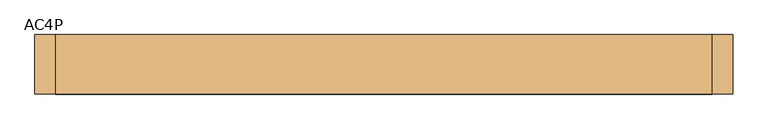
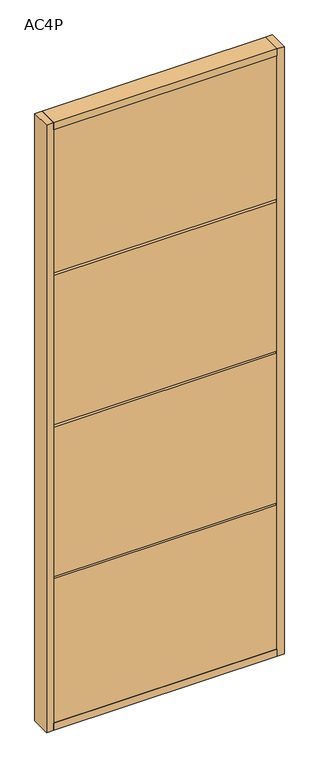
"""IFC4 building model written with IfcOpenShell, lengths in millimetres: door geometry, Mobiliário_Mobiliário de Escritório_Painel Cego - AC4P (Completo)_Marelli : AC4P."""

from ifc_helpers import new_model, si_unit, frame, origin, origin_with_axes, place, context, project, spatial, polyline, outline, extrude, source, transform, mapped, element, save


def ac4p_dcdd4fd7(model_context):
    return source(origin(), model_context, "Body", "SweptSolid", [
        extrude(outline(polyline([(470.0, 42.5), (470.0, -42.5), (-470.0, -42.5), (-470.0, 42.5), (470.0, 42.5)])), origin_with_axes(), (0.0, 0.0, 1.0), 30.0),
        extrude(outline(polyline([(470.0, 39.5), (470.0, 21.5), (-470.0, 21.5), (-470.0, 39.5), (470.0, 39.5)])), frame((0.0, 0.0, 30.0), z_axis=(0.0, 0.0, 1.0), x_axis=(1.0, 0.0, 0.0)), (0.0, 0.0, 1.0), 640.0),
        extrude(outline(polyline([(470.0, 21.5), (470.0, -21.5), (-470.0, -21.5), (-470.0, 21.5), (470.0, 21.5)])), frame((0.0, 0.0, 653.5), z_axis=(0.0, 0.0, 1.0), x_axis=(1.0, 0.0, 0.0)), (0.0, 0.0, 1.0), 43.0),
        extrude(outline(polyline([(470.0, -39.5), (-470.0, -39.5), (-470.0, -21.5), (470.0, -21.5), (470.0, -39.5)])), frame((0.0, 0.0, 30.0), z_axis=(0.0, 0.0, 1.0), x_axis=(1.0, 0.0, 0.0)), (0.0, 0.0, 1.0), 640.0),
        extrude(outline(polyline([(470.0, 42.5), (470.0, -42.5), (-470.0, -42.5), (-470.0, 42.5), (470.0, 42.5)])), frame((0.0, 0.0, 2670.0), z_axis=(0.0, 0.0, 1.0), x_axis=(1.0, 0.0, 0.0)), (0.0, 0.0, 1.0), 30.0),
        extrude(outline(polyline([(470.0, 39.5), (470.0, 21.5), (-470.0, 21.5), (-470.0, 39.5), (470.0, 39.5)])), frame((0.0, 0.0, 1355.0), z_axis=(0.0, 0.0, 1.0), x_axis=(1.0, 0.0, 0.0)), (0.0, 0.0, 1.0), 665.0),
        extrude(outline(polyline([(470.0, 21.5), (470.0, -21.5), (-470.0, -21.5), (-470.0, 21.5), (470.0, 21.5)])), frame((0.0, 0.0, 2003.5), z_axis=(0.0, 0.0, 1.0), x_axis=(1.0, 0.0, 0.0)), (0.0, 0.0, 1.0), 43.0),
        extrude(outline(polyline([(470.0, 21.5), (470.0, -21.5), (-470.0, -21.5), (-470.0, 21.5), (470.0, 21.5)])), frame((0.0, 0.0, 1328.5), z_axis=(0.0, 0.0, 1.0), x_axis=(1.0, 0.0, 0.0)), (0.0, 0.0, 1.0), 43.0),
        extrude(outline(polyline([(470.0, -39.5), (-470.0, -39.5), (-470.0, -21.5), (470.0, -21.5), (470.0, -39.5)])), frame((0.0, 0.0, 1355.0), z_axis=(0.0, 0.0, 1.0), x_axis=(1.0, 0.0, 0.0)), (0.0, 0.0, 1.0), 665.0),
        extrude(outline(polyline([(-500.0, -42.5), (-500.0, 42.5), (-470.0, 42.5), (-470.0, -42.5), (-500.0, -42.5)])), origin_with_axes(), (0.0, 0.0, 1.0), 2700.0),
        extrude(outline(polyline([(500.0, -42.5), (470.0, -42.5), (470.0, 42.5), (500.0, 42.5), (500.0, -42.5)])), origin_with_axes(), (0.0, 0.0, 1.0), 2700.0),
        extrude(outline(polyline([(470.0, 39.5), (470.0, 21.5), (-470.0, 21.5), (-470.0, 39.5), (470.0, 39.5)])), frame((0.0, 0.0, 2030.0), z_axis=(0.0, 0.0, 1.0), x_axis=(1.0, 0.0, 0.0)), (0.0, 0.0, 1.0), 640.0),
        extrude(outline(polyline([(470.0, -39.5), (-470.0, -39.5), (-470.0, -21.5), (470.0, -21.5), (470.0, -39.5)])), frame((0.0, 0.0, 2030.0), z_axis=(0.0, 0.0, 1.0), x_axis=(1.0, 0.0, 0.0)), (0.0, 0.0, 1.0), 640.0),
        extrude(outline(polyline([(470.0, 39.5), (470.0, 21.5), (-470.0, 21.5), (-470.0, 39.5), (470.0, 39.5)])), frame((0.0, 0.0, 680.0), z_axis=(0.0, 0.0, 1.0), x_axis=(1.0, 0.0, 0.0)), (0.0, 0.0, 1.0), 665.0),
        extrude(outline(polyline([(470.0, -39.5), (-470.0, -39.5), (-470.0, -21.5), (470.0, -21.5), (470.0, -39.5)])), frame((0.0, 0.0, 680.0), z_axis=(0.0, 0.0, 1.0), x_axis=(1.0, 0.0, 0.0)), (0.0, 0.0, 1.0), 665.0),
    ])


if __name__ == "__main__":
    model = new_model("IFC4")
    model_context = context("Model", 3, world=origin())
    ifc_project = project(units=[si_unit("LENGTHUNIT", "METRE", prefix="MILLI")], contexts=[model_context])
    site = spatial("IfcSite", under=ifc_project)
    building = spatial("IfcBuilding", under=site)
    placement = place(None, origin())
    ac4p_shape = ac4p_dcdd4fd7(model_context)
    element("IfcDoor", 1, ObjectType="Mobiliário_Mobiliário de Escritório_Painel Cego - AC4P (Completo)_Marelli : AC4P", at=placement, inside=building, context=model_context, shape_type="MappedRepresentation", body=[
        mapped(ac4p_shape, transform((0.0, 0.0, 0.0), x_axis=(1.0, 0.0, 0.0), y_axis=(0.0, 1.0, 0.0), z_axis=(0.0, 0.0, 1.0))),
    ])
    save(model, "model.ifc")
